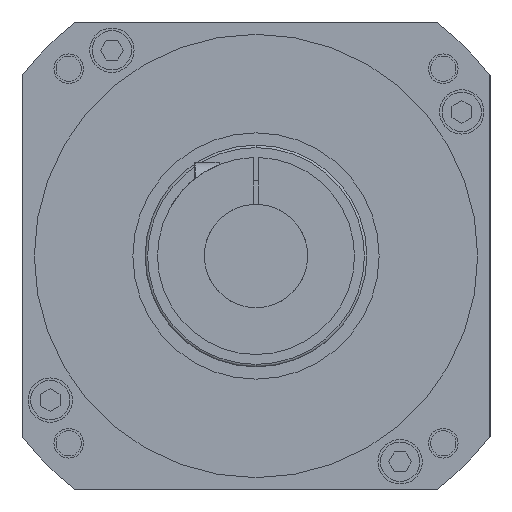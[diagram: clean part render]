
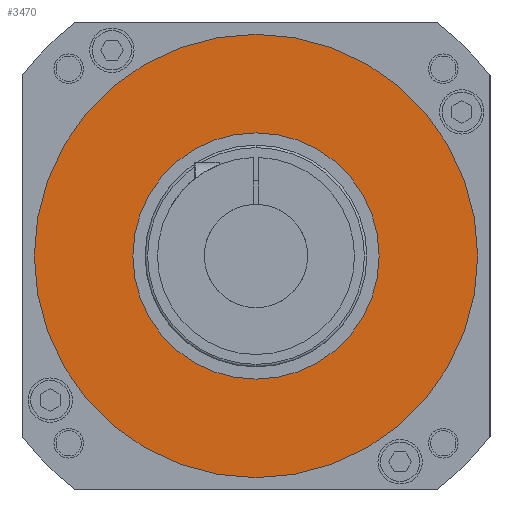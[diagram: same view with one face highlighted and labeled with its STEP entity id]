
A CAD part, left-side view. The second image highlights one B-rep face of the part: STEP entity #3470.
In plain terms, the highlighted planar face has unit normal (-1, 0, 0).
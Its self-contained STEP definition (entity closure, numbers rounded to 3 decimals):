
#595=CARTESIAN_POINT('',(-343.75,0.,0.));
#596=DIRECTION('',(-1.,0.,0.));
#597=DIRECTION('',(0.,0.,-1.));
#598=AXIS2_PLACEMENT_3D('',#595,#596,#597);
#600=CARTESIAN_POINT('',(-343.75,0.,0.));
#601=DIRECTION('',(1.,0.,0.));
#602=DIRECTION('',(0.,0.,-1.));
#603=AXIS2_PLACEMENT_3D('',#600,#601,#602);
#605=CARTESIAN_POINT('',(-343.75,0.,0.));
#606=DIRECTION('',(1.,0.,0.));
#607=DIRECTION('',(0.,0.,-1.));
#608=AXIS2_PLACEMENT_3D('',#605,#606,#607);
#618=CARTESIAN_POINT('',(-343.75,0.,0.));
#619=DIRECTION('',(-1.,0.,0.));
#620=DIRECTION('',(0.,0.,-1.));
#621=AXIS2_PLACEMENT_3D('',#618,#619,#620);
#2430=CARTESIAN_POINT('',(-343.75,0.,-90.));
#2432=VERTEX_POINT('',#2430);
#2433=CARTESIAN_POINT('',(-343.75,0.,-50.));
#2435=VERTEX_POINT('',#2433);
#2438=CARTESIAN_POINT('',(-343.75,0.,90.));
#2440=VERTEX_POINT('',#2438);
#2441=CARTESIAN_POINT('',(-343.75,0.,50.));
#2443=VERTEX_POINT('',#2441);
#3455=CARTESIAN_POINT('',(-343.75,0.,0.));
#3456=DIRECTION('',(1.,0.,0.));
#3457=DIRECTION('',(0.,0.,1.));
#3458=AXIS2_PLACEMENT_3D('',#3455,#3456,#3457);
#3459=PLANE('',#3458);
#3460=ORIENTED_EDGE('',*,*,#3448,.F.);
#3461=ORIENTED_EDGE('',*,*,#3437,.T.);
#3462=EDGE_LOOP('',(#3460,#3461));
#3463=FACE_OUTER_BOUND('',#3462,.F.);
#3465=ORIENTED_EDGE('',*,*,#3464,.F.);
#3467=ORIENTED_EDGE('',*,*,#3466,.T.);
#3468=EDGE_LOOP('',(#3465,#3467));
#3469=FACE_BOUND('',#3468,.F.);
#599=CIRCLE('',#598,90.);
#604=CIRCLE('',#603,90.);
#609=CIRCLE('',#608,50.);
#622=CIRCLE('',#621,50.);
#3437=EDGE_CURVE('',#2432,#2440,#604,.T.);
#3448=EDGE_CURVE('',#2432,#2440,#599,.T.);
#3464=EDGE_CURVE('',#2435,#2443,#609,.T.);
#3466=EDGE_CURVE('',#2435,#2443,#622,.T.);
#3470=ADVANCED_FACE('',(#3463,#3469),#3459,.F.);
